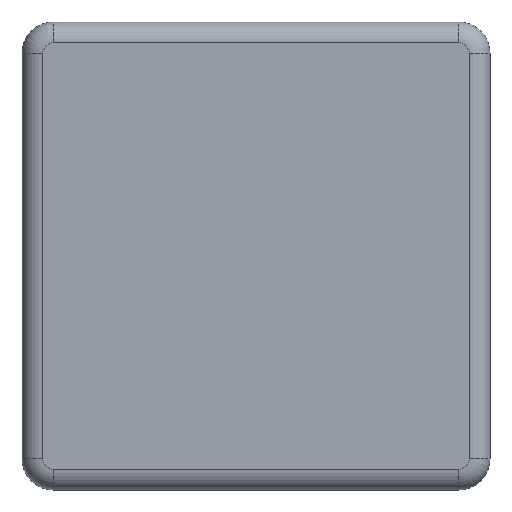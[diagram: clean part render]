
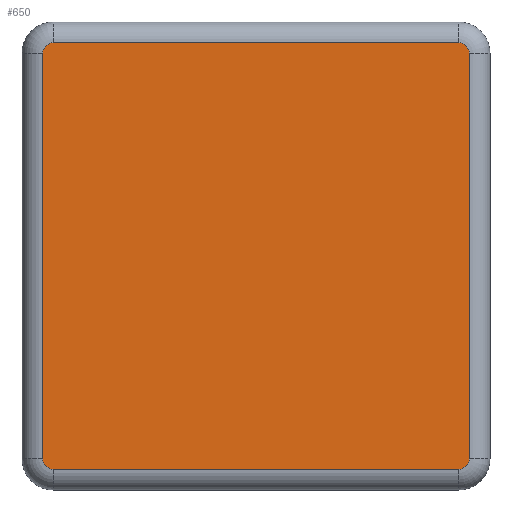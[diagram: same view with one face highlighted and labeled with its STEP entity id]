
A CAD part, front view. The second image highlights one B-rep face of the part: STEP entity #650.
In plain terms, the highlighted planar face has unit normal (0, -1, 0).
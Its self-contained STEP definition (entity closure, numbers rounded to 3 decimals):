
#13 = ORIENTED_EDGE ( 'NONE', *, *, #1526, .T. ) ;
#68 = EDGE_CURVE ( 'NONE', #740, #144, #1538, .T. ) ;
#75 = DIRECTION ( 'NONE',  ( 0., 1., 0. ) ) ;
#108 = CIRCLE ( 'NONE', #1408, 1. ) ;
#111 = CARTESIAN_POINT ( 'NONE',  ( -25.552, 0., -14.188 ) ) ;
#130 = CARTESIAN_POINT ( 'NONE',  ( 13.448, 0., 25.812 ) ) ;
#144 = VERTEX_POINT ( 'NONE', #886 ) ;
#168 = CARTESIAN_POINT ( 'NONE',  ( -25.552, 0., -15.188 ) ) ;
#174 = ORIENTED_EDGE ( 'NONE', *, *, #1570, .T. ) ;
#204 = DIRECTION ( 'NONE',  ( 1., 0., 0. ) ) ;
#224 = DIRECTION ( 'NONE',  ( 0., -1., 0. ) ) ;
#244 = DIRECTION ( 'NONE',  ( 0., 0., 1. ) ) ;
#320 = VERTEX_POINT ( 'NONE', #1071 ) ;
#376 = VERTEX_POINT ( 'NONE', #1056 ) ;
#382 = CARTESIAN_POINT ( 'NONE',  ( -26.552, 0., -14.188 ) ) ;
#408 = ORIENTED_EDGE ( 'NONE', *, *, #668, .T. ) ;
#411 = EDGE_CURVE ( 'NONE', #144, #533, #893, .T. ) ;
#477 = DIRECTION ( 'NONE',  ( 0., 0., 1. ) ) ;
#507 = VERTEX_POINT ( 'NONE', #168 ) ;
#533 = VERTEX_POINT ( 'NONE', #382 ) ;
#540 = AXIS2_PLACEMENT_3D ( 'NONE', #963, #224, #1087 ) ;
#551 = DIRECTION ( 'NONE',  ( 0., -1., 0. ) ) ;
#552 = DIRECTION ( 'NONE',  ( -1., 0., 0. ) ) ;
#567 = AXIS2_PLACEMENT_3D ( 'NONE', #820, #75, #935 ) ;
#650 = ADVANCED_FACE ( 'NONE', ( #1535 ), #1435, .F. ) ;
#668 = EDGE_CURVE ( 'NONE', #507, #934, #1156, .T. ) ;
#703 = ORIENTED_EDGE ( 'NONE', *, *, #993, .T. ) ;
#711 = VERTEX_POINT ( 'NONE', #130 ) ;
#715 = CARTESIAN_POINT ( 'NONE',  ( 13.448, 0., -14.188 ) ) ;
#729 = ORIENTED_EDGE ( 'NONE', *, *, #411, .T. ) ;
#737 = CIRCLE ( 'NONE', #871, 1. ) ;
#740 = VERTEX_POINT ( 'NONE', #1497 ) ;
#820 = CARTESIAN_POINT ( 'NONE',  ( 0., 0., 0. ) ) ;
#838 = ORIENTED_EDGE ( 'NONE', *, *, #68, .T. ) ;
#839 = DIRECTION ( 'NONE',  ( 0., 0., 1. ) ) ;
#871 = AXIS2_PLACEMENT_3D ( 'NONE', #111, #978, #244 ) ;
#886 = CARTESIAN_POINT ( 'NONE',  ( -26.552, 0., 24.812 ) ) ;
#893 = LINE ( 'NONE', #1475, #1176 ) ;
#934 = VERTEX_POINT ( 'NONE', #1057 ) ;
#935 = DIRECTION ( 'NONE',  ( 0., 0., 1. ) ) ;
#937 = CIRCLE ( 'NONE', #540, 1. ) ;
#963 = CARTESIAN_POINT ( 'NONE',  ( 13.448, 0., 24.812 ) ) ;
#965 = ORIENTED_EDGE ( 'NONE', *, *, #1085, .T. ) ;
#978 = DIRECTION ( 'NONE',  ( 0., -1., 0. ) ) ;
#990 = EDGE_CURVE ( 'NONE', #376, #320, #1060, .T. ) ;
#993 = EDGE_CURVE ( 'NONE', #533, #507, #737, .T. ) ;
#1056 = CARTESIAN_POINT ( 'NONE',  ( 14.448, 0., -14.188 ) ) ;
#1057 = CARTESIAN_POINT ( 'NONE',  ( 13.448, 0., -15.188 ) ) ;
#1060 = LINE ( 'NONE', #1220, #1357 ) ;
#1071 = CARTESIAN_POINT ( 'NONE',  ( 14.448, 0., 24.812 ) ) ;
#1085 = EDGE_CURVE ( 'NONE', #711, #740, #1236, .T. ) ;
#1087 = DIRECTION ( 'NONE',  ( 0., 0., 1. ) ) ;
#1156 = LINE ( 'NONE', #1565, #1453 ) ;
#1176 = VECTOR ( 'NONE', #1600, 1000. ) ;
#1220 = CARTESIAN_POINT ( 'NONE',  ( 14.448, 0., 0. ) ) ;
#1236 = LINE ( 'NONE', #1294, #1534 ) ;
#1292 = CARTESIAN_POINT ( 'NONE',  ( -25.552, 0., 24.812 ) ) ;
#1294 = CARTESIAN_POINT ( 'NONE',  ( 0., 0., 25.812 ) ) ;
#1357 = VECTOR ( 'NONE', #477, 1000. ) ;
#1408 = AXIS2_PLACEMENT_3D ( 'NONE', #715, #1578, #839 ) ;
#1412 = AXIS2_PLACEMENT_3D ( 'NONE', #1292, #551, #1419 ) ;
#1419 = DIRECTION ( 'NONE',  ( 0., 0., 1. ) ) ;
#1435 = PLANE ( 'NONE',  #567 ) ;
#1453 = VECTOR ( 'NONE', #204, 1000. ) ;
#1475 = CARTESIAN_POINT ( 'NONE',  ( -26.552, 0., 0. ) ) ;
#1497 = CARTESIAN_POINT ( 'NONE',  ( -25.552, 0., 25.812 ) ) ;
#1526 = EDGE_CURVE ( 'NONE', #934, #376, #108, .T. ) ;
#1534 = VECTOR ( 'NONE', #552, 1000. ) ;
#1535 = FACE_OUTER_BOUND ( 'NONE', #1543, .T. ) ;
#1538 = CIRCLE ( 'NONE', #1412, 1. ) ;
#1543 = EDGE_LOOP ( 'NONE', ( #965, #838, #729, #703, #408, #13, #1595, #174 ) ) ;
#1565 = CARTESIAN_POINT ( 'NONE',  ( 0., 0., -15.188 ) ) ;
#1570 = EDGE_CURVE ( 'NONE', #320, #711, #937, .T. ) ;
#1578 = DIRECTION ( 'NONE',  ( 0., -1., 0. ) ) ;
#1595 = ORIENTED_EDGE ( 'NONE', *, *, #990, .T. ) ;
#1600 = DIRECTION ( 'NONE',  ( 0., 0., -1. ) ) ;
